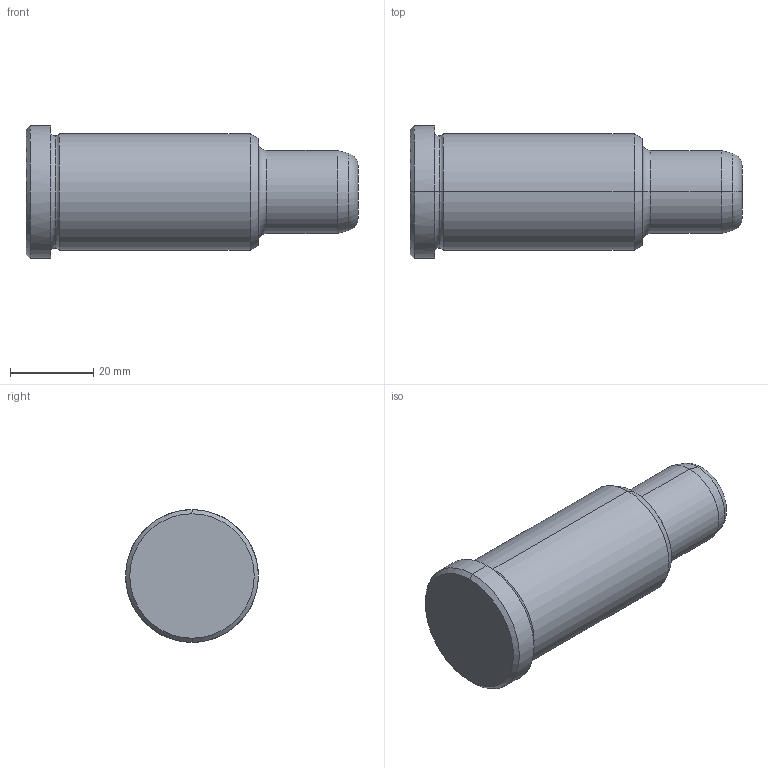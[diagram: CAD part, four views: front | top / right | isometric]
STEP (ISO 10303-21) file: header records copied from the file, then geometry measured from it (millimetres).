
FILE_DESCRIPTION(('CATIA V5 STEP Exchange'),'2;1');
FILE_NAME('C:\Users\Utente\Desktop\IO LAVORO\3D X SITO CF\X SITO\PLASTICA\351\351-20X56X80.stp','2021-08-27T12:51:30+00:00',('none'),('none'),'CATIA Version 5 Release 20 GA (IN-10)','CATIA V5 STEP AP203','none');
FILE_SCHEMA(('CONFIG_CONTROL_DESIGN'));
Length unit declared in the file: millimetre
Products named in the file (1): 351-20X56X80
Bounding box: 80 x 32 x 32 mm (x, y, z)
Volume: 42746.7 mm3; surface area: 7821.6 mm2
Topology: 1 solids, 1 shells, 24 faces, 70 edges, 50 vertices
Faces by surface type: torus 8, cone 6, cylinder 6, plane 4
Entity records: 932 total; most frequent: CARTESIAN_POINT 257, ORIENTED_EDGE 140, DIRECTION 110, AXIS2_PLACEMENT_3D 75, EDGE_CURVE 70, CIRCLE 50, VERTEX_POINT 50, EDGE_LOOP 26
